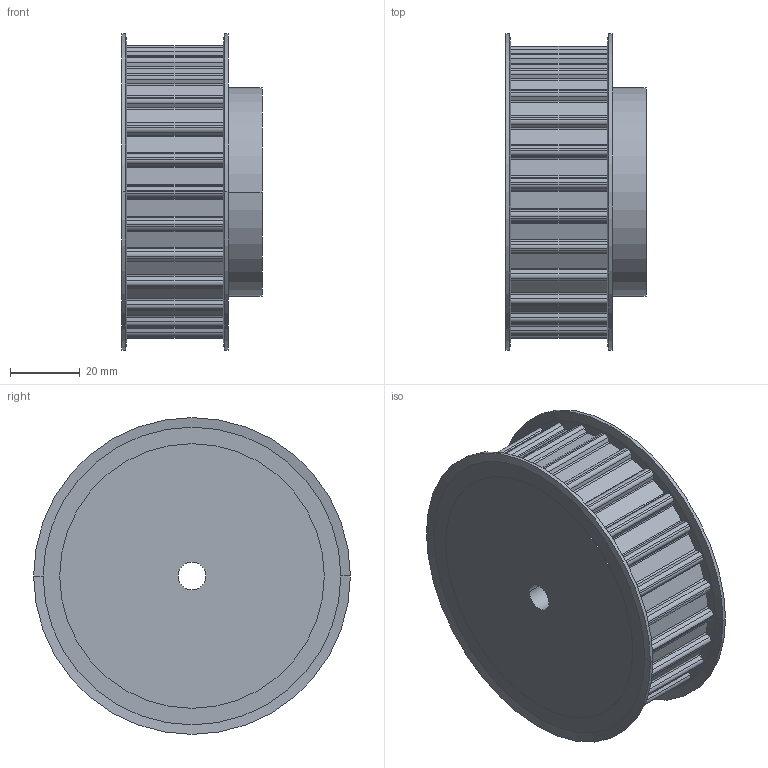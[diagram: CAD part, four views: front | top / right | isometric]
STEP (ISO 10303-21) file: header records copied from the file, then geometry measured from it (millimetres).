
FILE_DESCRIPTION( ( '' ), '1' );
FILE_NAME( 'C:/Users/Stangenbergd/Documents/CAD_Step/1/16832700.stp', '2021-10-19T09:45:44', ( '' ), ( '' ), ' ', ' ', ' ' );
FILE_SCHEMA( ( 'CONFIG_CONTROL_DESIGN' ) );
Length unit declared in the file: millimetre
Products named in the file (1): 1
Bounding box: 40.24 x 91 x 91 mm (x, y, z)
Volume: 183301.9 mm3; surface area: 28137.6 mm2
Topology: 1 solids, 1 shells, 244 faces, 703 edges, 466 vertices
Faces by surface type: cylinder 148, plane 88, cone 8
Entity records: 8175 total; most frequent: DIRECTION 1497, CARTESIAN_POINT 1414, ORIENTED_EDGE 1406, EDGE_CURVE 703, AXIS2_PLACEMENT_3D 549, VERTEX_POINT 466, LINE 399, VECTOR 399
